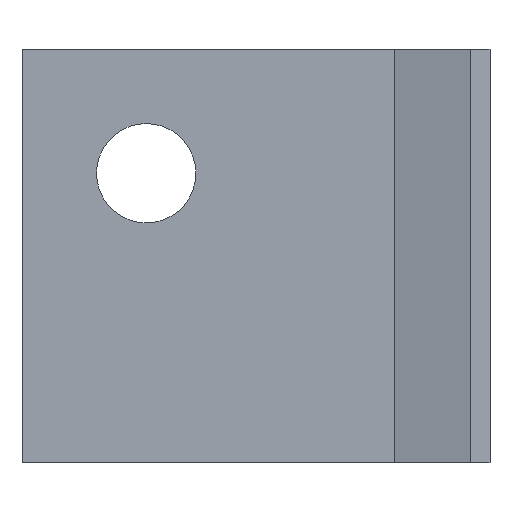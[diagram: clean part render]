
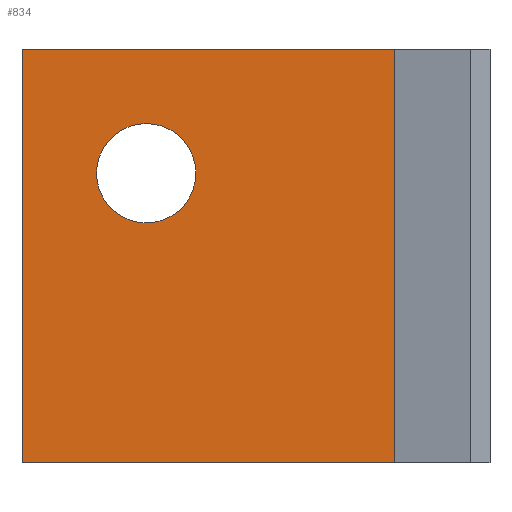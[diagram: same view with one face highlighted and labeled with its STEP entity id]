
A CAD part, left-side view. The second image highlights one B-rep face of the part: STEP entity #834.
In plain terms, the highlighted planar face has unit normal (-1, 0, 0).
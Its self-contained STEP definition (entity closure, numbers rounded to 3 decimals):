
#21=FACE_BOUND('',#94,.T.);
#24=CIRCLE('',#869,1.2);
#46=FACE_OUTER_BOUND('',#93,.T.);
#93=EDGE_LOOP('',(#636,#637,#638,#639));
#94=EDGE_LOOP('',(#640));
#166=LINE('',#1224,#279);
#168=LINE('',#1228,#281);
#169=LINE('',#1230,#282);
#170=LINE('',#1231,#283);
#279=VECTOR('',#1002,10.);
#281=VECTOR('',#1006,10.);
#282=VECTOR('',#1007,10.);
#283=VECTOR('',#1008,10.);
#358=VERTEX_POINT('',#1157);
#380=VERTEX_POINT('',#1221);
#381=VERTEX_POINT('',#1223);
#382=VERTEX_POINT('',#1227);
#383=VERTEX_POINT('',#1229);
#442=EDGE_CURVE('',#358,#358,#24,.T.);
#474=EDGE_CURVE('',#380,#381,#166,.T.);
#476=EDGE_CURVE('',#382,#380,#168,.T.);
#477=EDGE_CURVE('',#383,#382,#169,.T.);
#478=EDGE_CURVE('',#381,#383,#170,.T.);
#636=ORIENTED_EDGE('',*,*,#476,.F.);
#637=ORIENTED_EDGE('',*,*,#477,.F.);
#638=ORIENTED_EDGE('',*,*,#478,.F.);
#639=ORIENTED_EDGE('',*,*,#474,.F.);
#640=ORIENTED_EDGE('',*,*,#442,.T.);
#791=PLANE('',#883);
#834=ADVANCED_FACE('',(#46,#21),#791,.T.);
#869=AXIS2_PLACEMENT_3D('',#1158,#945,#946);
#883=AXIS2_PLACEMENT_3D('',#1226,#1004,#1005);
#945=DIRECTION('center_axis',(1.,0.,0.));
#946=DIRECTION('ref_axis',(0.,0.,1.));
#1002=DIRECTION('',(0.,0.,1.));
#1004=DIRECTION('center_axis',(-1.,0.,0.));
#1005=DIRECTION('ref_axis',(0.,0.,1.));
#1006=DIRECTION('',(0.,1.,0.));
#1007=DIRECTION('',(0.,0.,-1.));
#1008=DIRECTION('',(0.,-1.,0.));
#1157=CARTESIAN_POINT('',(-5.,6.,5.8));
#1158=CARTESIAN_POINT('Origin',(-5.,6.,7.));
#1221=CARTESIAN_POINT('',(-5.,9.,0.));
#1223=CARTESIAN_POINT('',(-5.,9.,10.));
#1224=CARTESIAN_POINT('',(-5.,9.,6.25));
#1226=CARTESIAN_POINT('Origin',(-5.,1.5,5.));
#1227=CARTESIAN_POINT('',(-5.,0.,0.));
#1228=CARTESIAN_POINT('',(-5.,2.25,0.));
#1229=CARTESIAN_POINT('',(-5.,0.,10.));
#1230=CARTESIAN_POINT('',(-5.,0.,2.5));
#1231=CARTESIAN_POINT('',(-5.,6.,10.));
